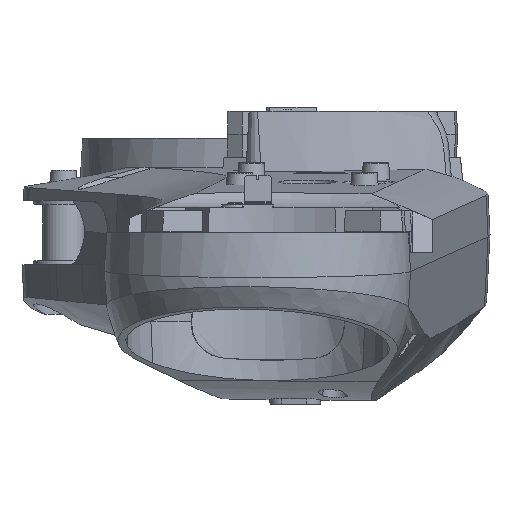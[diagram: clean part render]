
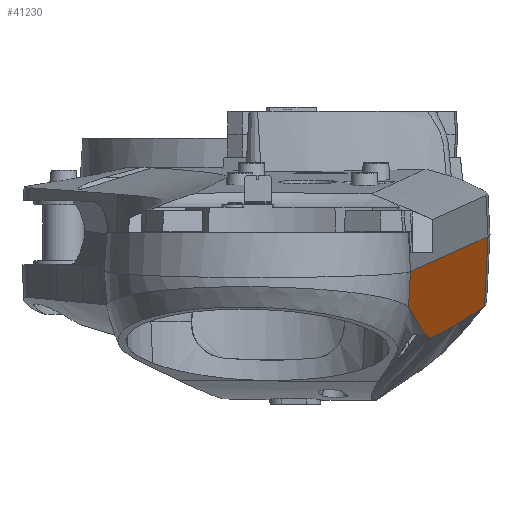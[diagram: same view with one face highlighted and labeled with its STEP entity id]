
A CAD part, top view. The second image highlights one B-rep face of the part: STEP entity #41230.
In plain terms, the highlighted planar face has unit normal (0.994, -0.057, 0.093).
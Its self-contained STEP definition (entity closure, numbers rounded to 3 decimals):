
#992 = CARTESIAN_POINT ( 'NONE',  ( 871.97, -325.342, 1812.906 ) ) ;
#1064 = CARTESIAN_POINT ( 'NONE',  ( 871.557, -281.037, 1844.214 ) ) ;
#1545 = CARTESIAN_POINT ( 'NONE',  ( 961.884, -320.67, 856.479 ) ) ;
#1889 = CARTESIAN_POINT ( 'NONE',  ( 882.987, -342.745, 1684.793 ) ) ;
#2787 = CARTESIAN_POINT ( 'NONE',  ( 910.674, -354.642, 1382.193 ) ) ;
#2843 = CARTESIAN_POINT ( 'NONE',  ( 873.153, -280.292, 1827.636 ) ) ;
#3696 = CARTESIAN_POINT ( 'NONE',  ( 906.735, -357.256, 1422.632 ) ) ;
#3931 = EDGE_LOOP ( 'NONE', ( #25723, #28892, #45363, #24114 ) ) ;
#5861 = CARTESIAN_POINT ( 'NONE',  ( 903.298, -359.339, 1458.027 ) ) ;
#6749 = CARTESIAN_POINT ( 'NONE',  ( 890.784, -354.744, 1594.324 ) ) ;
#8283 = CARTESIAN_POINT ( 'NONE',  ( 959.421, -322.307, 881.754 ) ) ;
#10141 = CARTESIAN_POINT ( 'NONE',  ( 885.581, -346.83, 1654.648 ) ) ;
#10234 = EDGE_CURVE ( 'NONE', #21749, #56156, #15984, .T. ) ;
#10446 = CARTESIAN_POINT ( 'NONE',  ( 888.173, -350.92, 1624.503 ) ) ;
#10516 = FACE_OUTER_BOUND ( 'NONE', #3931, .T. ) ;
#11011 = VECTOR ( 'NONE', #11809, 1000. ) ;
#11034 = CARTESIAN_POINT ( 'NONE',  ( 871.43, -324.481, 1819.185 ) ) ;
#11336 = CARTESIAN_POINT ( 'NONE',  ( 889.254, -352.619, 1611.942 ) ) ;
#11771 = VERTEX_POINT ( 'NONE', #2843 ) ;
#11809 = DIRECTION ( 'NONE',  ( -0.096, -0.045, 0.994 ) ) ;
#12127 = CARTESIAN_POINT ( 'NONE',  ( 873.153, -280.292, 1827.636 ) ) ;
#12842 = CARTESIAN_POINT ( 'NONE',  ( 912.643, -353.337, 1361.973 ) ) ;
#15012 = CARTESIAN_POINT ( 'NONE',  ( 889.907, -353.571, 1604.397 ) ) ;
#15541 = LINE ( 'NONE', #53580, #11011 ) ;
#15891 = CARTESIAN_POINT ( 'NONE',  ( 875.209, -330.477, 1775.228 ) ) ;
#15984 = LINE ( 'NONE', #22287, #25825 ) ;
#16189 = CARTESIAN_POINT ( 'NONE',  ( 873.264, -327.41, 1797.836 ) ) ;
#17699 = CARTESIAN_POINT ( 'NONE',  ( 961.884, -320.67, 856.479 ) ) ;
#19901 = CARTESIAN_POINT ( 'NONE',  ( 870.996, -323.83, 1824.213 ) ) ;
#20179 = CARTESIAN_POINT ( 'NONE',  ( 879.53, -337.293, 1724.986 ) ) ;
#20492 = CARTESIAN_POINT ( 'NONE',  ( 887.957, -350.578, 1627.015 ) ) ;
#20591 = AXIS2_PLACEMENT_3D ( 'NONE', #1064, #42534, #56546 ) ;
#21749 = VERTEX_POINT ( 'NONE', #1545 ) ;
#22202 = CARTESIAN_POINT ( 'NONE',  ( 966.261, -236.854, 860.666 ) ) ;
#22280 = CARTESIAN_POINT ( 'NONE',  ( 922.491, -346.807, 1260.874 ) ) ;
#22287 = CARTESIAN_POINT ( 'NONE',  ( 966.261, -236.854, 860.666 ) ) ;
#24114 = ORIENTED_EDGE ( 'NONE', *, *, #58085, .T. ) ;
#24173 = CARTESIAN_POINT ( 'NONE',  ( 884.716, -345.472, 1664.697 ) ) ;
#24476 = CARTESIAN_POINT ( 'NONE',  ( 904.52, -358.707, 1445.381 ) ) ;
#24565 = VERTEX_POINT ( 'NONE', #52374 ) ;
#24717 = EDGE_CURVE ( 'NONE', #24565, #11771, #40785, .T. ) ;
#25723 = ORIENTED_EDGE ( 'NONE', *, *, #24717, .F. ) ;
#25825 = VECTOR ( 'NONE', #58315, 1000. ) ;
#25972 = CARTESIAN_POINT ( 'NONE',  ( 961.637, -320.836, 859.007 ) ) ;
#26266 = CARTESIAN_POINT ( 'NONE',  ( 905.257, -358.247, 1437.796 ) ) ;
#26887 = CARTESIAN_POINT ( 'NONE',  ( 956.96, -323.937, 907.029 ) ) ;
#28892 = ORIENTED_EDGE ( 'NONE', *, *, #42064, .T. ) ;
#29048 = CARTESIAN_POINT ( 'NONE',  ( 895.224, -359.745, 1543.925 ) ) ;
#29960 = CARTESIAN_POINT ( 'NONE',  ( 889.471, -352.944, 1609.428 ) ) ;
#30257 = CARTESIAN_POINT ( 'NONE',  ( 930.37, -341.58, 1179.995 ) ) ;
#30888 = CARTESIAN_POINT ( 'NONE',  ( 904.765, -358.561, 1442.852 ) ) ;
#31082 = DIRECTION ( 'NONE',  ( 0.052, 0.997, 0.05 ) ) ;
#31495 = CARTESIAN_POINT ( 'NONE',  ( 952.036, -327.205, 957.578 ) ) ;
#33674 = CARTESIAN_POINT ( 'NONE',  ( 870.941, -323.753, 1824.842 ) ) ;
#33970 = CARTESIAN_POINT ( 'NONE',  ( 903.785, -359.112, 1452.969 ) ) ;
#34246 = CARTESIAN_POINT ( 'NONE',  ( 872.401, -326.041, 1807.884 ) ) ;
#34546 = CARTESIAN_POINT ( 'NONE',  ( 882.123, -341.382, 1694.841 ) ) ;
#36027 = CARTESIAN_POINT ( 'NONE',  ( 960.899, -321.327, 866.589 ) ) ;
#36791 = B_SPLINE_CURVE_WITH_KNOTS ( 'NONE', 3,
 ( #57632, #33674, #19901, #48242, #39097, #11034, #38811, #992, #34246, #43362, #47945, #16189, #38522, #15891, #43647, #20179, #34546, #1889, #24173, #10141, #42762, #38216, #20492, #10446, #53105, #56764, #11336, #29960, #15012, #48525, #6749, #52195, #29048, #47657, #5861, #33970, #24476, #30888, #26266, #39974, #3696, #54606, #2787, #12842, #22280, #30257, #40897, #59428, #31495, #54297, #26887, #50044, #8283, #49131, #49443, #36027, #45469, #25972, #17699 ),
 .UNSPECIFIED., .F., .F.,
 ( 4, 2, 1, 2, 2, 2, 2, 2, 2, 2, 2, 2, 2, 2, 2, 2, 2, 2, 2, 2, 2, 2, 2, 2, 2, 2, 2, 2, 2, 4 ),
 ( 0.006, 0.008, 0.01, 0.014, 0.022, 0.029, 0.037, 0.067, 0.128, 0.159, 0.19, 0.205, 0.212, 0.22, 0.228, 0.235, 0.251, 0.373, 0.388, 0.396, 0.403, 0.434, 0.495, 0.739, 0.861, 0.922, 0.953, 0.968, 0.976, 0.983 ),
 .UNSPECIFIED. ) ;
#38216 = CARTESIAN_POINT ( 'NONE',  ( 887.309, -349.552, 1634.55 ) ) ;
#38522 = CARTESIAN_POINT ( 'NONE',  ( 874.345, -329.113, 1785.276 ) ) ;
#38811 = CARTESIAN_POINT ( 'NONE',  ( 871.754, -324.992, 1815.416 ) ) ;
#39097 = CARTESIAN_POINT ( 'NONE',  ( 871.268, -324.23, 1821.069 ) ) ;
#39974 = CARTESIAN_POINT ( 'NONE',  ( 905.503, -358.08, 1435.269 ) ) ;
#40785 = LINE ( 'NONE', #12127, #55688 ) ;
#40897 = CARTESIAN_POINT ( 'NONE',  ( 942.187, -333.739, 1058.677 ) ) ;
#41230 = ADVANCED_FACE ( 'NONE', ( #10516 ), #43134, .T. ) ;
#42064 = EDGE_CURVE ( 'NONE', #24565, #21749, #36791, .T. ) ;
#42534 = DIRECTION ( 'NONE',  ( 0.994, -0.057, 0.093 ) ) ;
#42762 = CARTESIAN_POINT ( 'NONE',  ( 886.877, -348.871, 1639.575 ) ) ;
#43134 = PLANE ( 'NONE',  #20591 ) ;
#43362 = CARTESIAN_POINT ( 'NONE',  ( 872.616, -326.389, 1805.373 ) ) ;
#43647 = CARTESIAN_POINT ( 'NONE',  ( 877.802, -334.566, 1745.083 ) ) ;
#45363 = ORIENTED_EDGE ( 'NONE', *, *, #10234, .T. ) ;
#45469 = CARTESIAN_POINT ( 'NONE',  ( 961.391, -320.999, 861.534 ) ) ;
#47657 = CARTESIAN_POINT ( 'NONE',  ( 898.938, -360.999, 1503.538 ) ) ;
#47945 = CARTESIAN_POINT ( 'NONE',  ( 873.048, -327.071, 1800.349 ) ) ;
#48242 = CARTESIAN_POINT ( 'NONE',  ( 871.105, -323.988, 1822.955 ) ) ;
#48525 = CARTESIAN_POINT ( 'NONE',  ( 890.126, -353.872, 1601.879 ) ) ;
#49131 = CARTESIAN_POINT ( 'NONE',  ( 959.914, -321.981, 876.699 ) ) ;
#49443 = CARTESIAN_POINT ( 'NONE',  ( 960.652, -321.491, 869.117 ) ) ;
#50044 = CARTESIAN_POINT ( 'NONE',  ( 957.944, -323.285, 896.919 ) ) ;
#52195 = CARTESIAN_POINT ( 'NONE',  ( 891.226, -355.282, 1589.284 ) ) ;
#52374 = CARTESIAN_POINT ( 'NONE',  ( 870.888, -323.662, 1825.469 ) ) ;
#53105 = CARTESIAN_POINT ( 'NONE',  ( 888.605, -351.606, 1619.479 ) ) ;
#53580 = CARTESIAN_POINT ( 'NONE',  ( 871.557, -281.037, 1844.214 ) ) ;
#54297 = CARTESIAN_POINT ( 'NONE',  ( 954.005, -325.897, 937.358 ) ) ;
#54606 = CARTESIAN_POINT ( 'NONE',  ( 907.719, -356.602, 1412.522 ) ) ;
#55688 = VECTOR ( 'NONE', #31082, 1000. ) ;
#56156 = VERTEX_POINT ( 'NONE', #22202 ) ;
#56546 = DIRECTION ( 'NONE',  ( -0.093, 0., 0.996 ) ) ;
#56764 = CARTESIAN_POINT ( 'NONE',  ( 888.821, -351.949, 1616.967 ) ) ;
#57632 = CARTESIAN_POINT ( 'NONE',  ( 870.888, -323.662, 1825.469 ) ) ;
#58085 = EDGE_CURVE ( 'NONE', #56156, #11771, #15541, .T. ) ;
#58315 = DIRECTION ( 'NONE',  ( 0.052, 0.997, 0.05 ) ) ;
#59428 = CARTESIAN_POINT ( 'NONE',  ( 946.127, -331.125, 1018.237 ) ) ;
